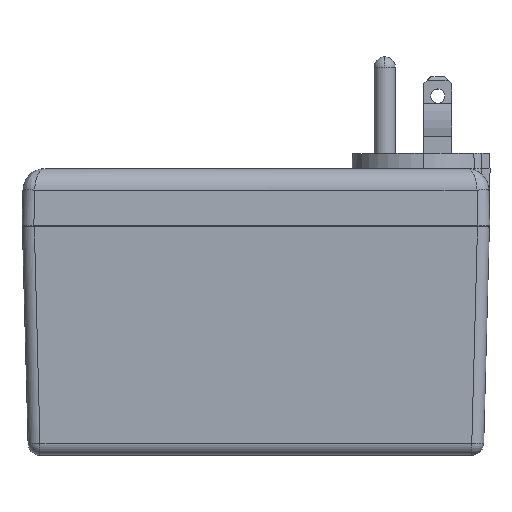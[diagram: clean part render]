
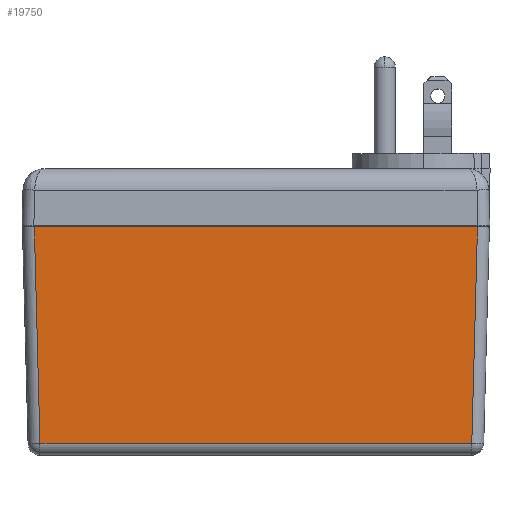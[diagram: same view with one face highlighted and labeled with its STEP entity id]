
A CAD part, top view. The second image highlights one B-rep face of the part: STEP entity #19750.
In plain terms, the highlighted planar face has unit normal (0, -0.026, 1).
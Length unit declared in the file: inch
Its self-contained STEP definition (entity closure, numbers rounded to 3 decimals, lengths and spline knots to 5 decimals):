
#2515 = DIRECTION ( 'NONE',  ( 0., -1., -0.026 ) ) ;
#2516 = DIRECTION ( 'NONE',  ( 0., -0.026, 1. ) ) ;
#2537 = PLANE ( 'NONE',  #5038 ) ;
#2542 = CARTESIAN_POINT ( 'NONE',  ( -2.0545, 0., 1.116 ) ) ;
#2600 = ORIENTED_EDGE ( 'NONE', *, *, #7554, .T. ) ;
#2601 = ORIENTED_EDGE ( 'NONE', *, *, #7568, .T. ) ;
#2603 = ORIENTED_EDGE ( 'NONE', *, *, #7570, .F. ) ;
#2604 = ORIENTED_EDGE ( 'NONE', *, *, #7569, .T. ) ;
#5038 = AXIS2_PLACEMENT_3D ( 'NONE', #2542, #2516, #2515 ) ;
#6286 = CARTESIAN_POINT ( 'NONE',  ( -1.94954, 0., 1.116 ) ) ;
#6292 = CARTESIAN_POINT ( 'NONE',  ( 1.94954, 0., 1.116 ) ) ;
#6368 = CARTESIAN_POINT ( 'NONE',  ( -1.89971, -1.90275, 1.06617 ) ) ;
#6383 = CARTESIAN_POINT ( 'NONE',  ( 1.89971, -1.90275, 1.06617 ) ) ;
#6926 = VERTEX_POINT ( 'NONE', #6383 ) ;
#6938 = VERTEX_POINT ( 'NONE', #6368 ) ;
#6997 = VERTEX_POINT ( 'NONE', #6292 ) ;
#7002 = VERTEX_POINT ( 'NONE', #6286 ) ;
#7554 = EDGE_CURVE ( 'NONE', #6938, #6926, #13349, .T. ) ;
#7568 = EDGE_CURVE ( 'NONE', #6926, #6997, #21189, .T. ) ;
#7569 = EDGE_CURVE ( 'NONE', #7002, #6938, #21187, .T. ) ;
#7570 = EDGE_CURVE ( 'NONE', #7002, #6997, #21185, .T. ) ;
#9337 = DIRECTION ( 'NONE',  ( 1., 0., 0. ) ) ;
#9338 = CARTESIAN_POINT ( 'NONE',  ( -2.0545, 0., 1.116 ) ) ;
#9339 = DIRECTION ( 'NONE',  ( 0.026, -0.999, -0.026 ) ) ;
#9340 = CARTESIAN_POINT ( 'NONE',  ( -1.94961, 0.00274, 1.11607 ) ) ;
#9341 = DIRECTION ( 'NONE',  ( 0.026, 0.999, 0.026 ) ) ;
#9342 = CARTESIAN_POINT ( 'NONE',  ( 1.94679, -0.10471, 1.11326 ) ) ;
#9384 = DIRECTION ( 'NONE',  ( 1., 0., 0. ) ) ;
#9393 = CARTESIAN_POINT ( 'NONE',  ( -2.0545, -1.90275, 1.06617 ) ) ;
#11001 = FACE_OUTER_BOUND ( 'NONE', #19454, .T. ) ;
#13349 = LINE ( 'NONE', #9393, #13352 ) ;
#13352 = VECTOR ( 'NONE', #9384, 39.37008 ) ;
#19454 = EDGE_LOOP ( 'NONE', ( #2600, #2601, #2603, #2604 ) ) ;
#19750 = ADVANCED_FACE ( 'NONE', ( #11001 ), #2537, .T. ) ;
#21184 = VECTOR ( 'NONE', #9337, 39.37008 ) ;
#21185 = LINE ( 'NONE', #9338, #21184 ) ;
#21186 = VECTOR ( 'NONE', #9339, 39.37008 ) ;
#21187 = LINE ( 'NONE', #9340, #21186 ) ;
#21188 = VECTOR ( 'NONE', #9341, 39.37008 ) ;
#21189 = LINE ( 'NONE', #9342, #21188 ) ;
